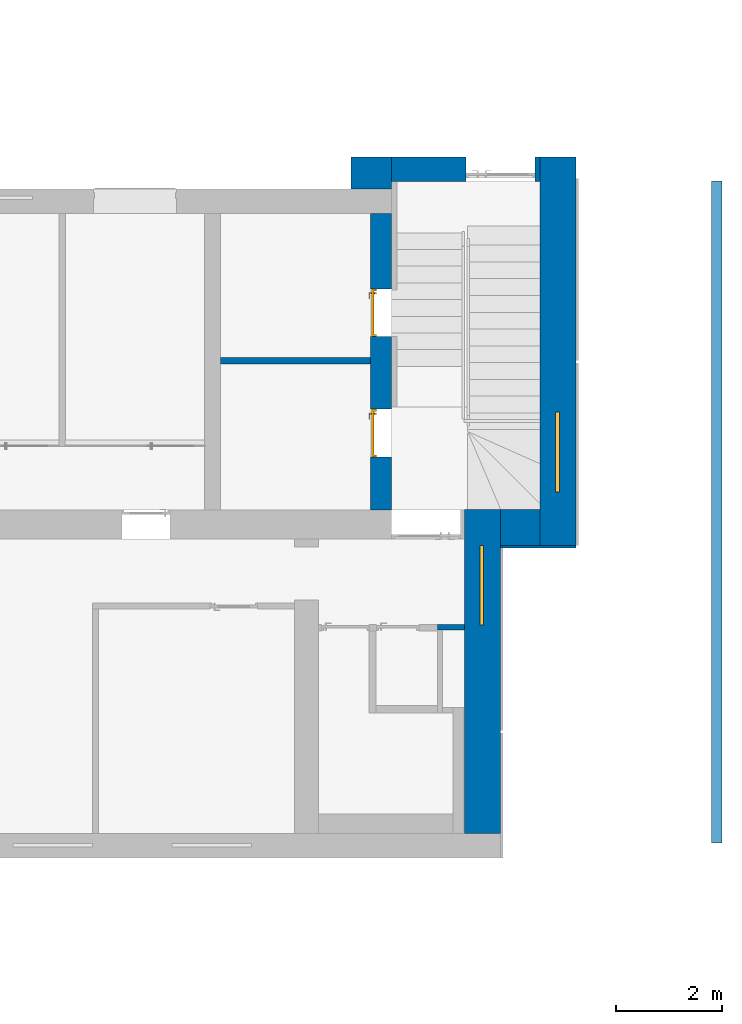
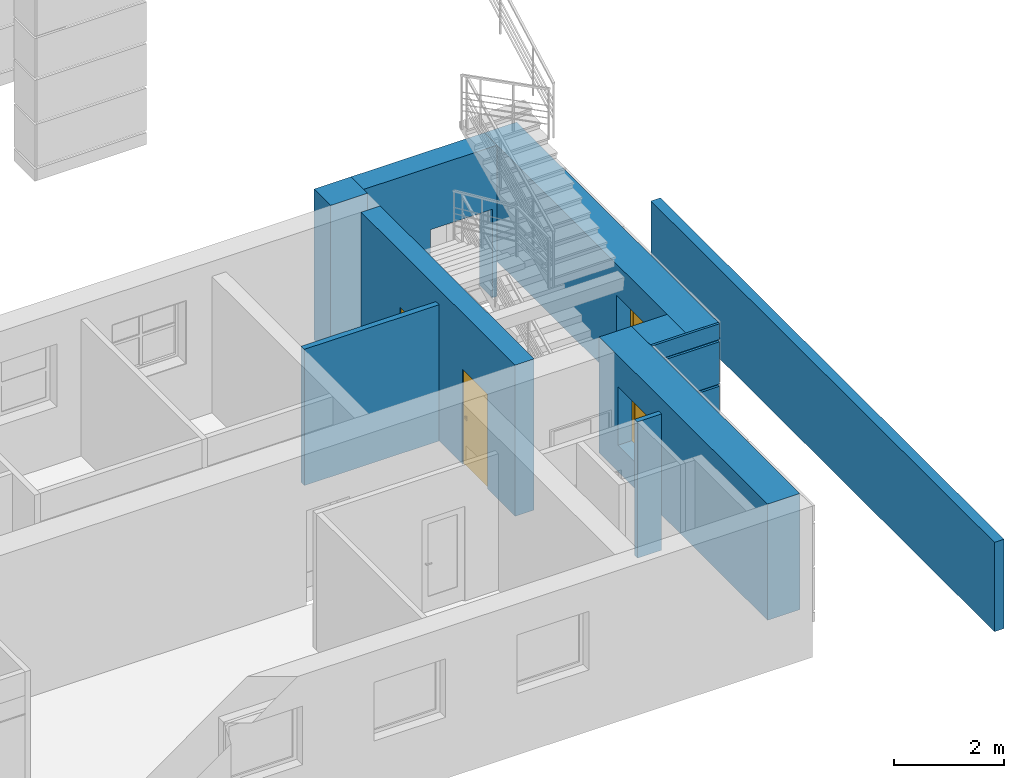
# One storey, part 29 of 49: 10 walls, 2 doors, 2 windows, 6 openings.
"""IFC2X3 building model written with IfcOpenShell, lengths in millimetres."""

from ifc_helpers import new_model, entity, si_unit, converted_unit, derived_unit, direction, frame, frame_2d, origin, place, context, subcontext, project, spatial, rectangle, extrude, face_set, faceted_brep, surface_model, source, transform, mapped, material, material_list, layer, layer_set, layer_usage, type_object, type_shapes, element, fill, save


model = new_model("IFC2X3")

# Units and contexts
model_context = context("Model", 3, precision=0.01, world=origin(), true_north=direction((6.12303176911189e-17, 1.0)))
body_context = subcontext(model_context, "Body", "Model", "MODEL_VIEW")
ifc_project = project(units=[si_unit("LENGTHUNIT", "METRE", prefix="MILLI"), si_unit("AREAUNIT", "SQUARE_METRE"), si_unit("VOLUMEUNIT", "CUBIC_METRE"), converted_unit("PLANEANGLEUNIT", "DEGREE", entity("IfcRatioMeasure", 0.0174532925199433), si_unit("PLANEANGLEUNIT", "RADIAN"), dimensions=[0, 0, 0, 0, 0, 0, 0]), si_unit("MASSUNIT", "GRAM", prefix="KILO"), derived_unit("MASSDENSITYUNIT", [(si_unit("MASSUNIT", "GRAM", prefix="KILO"), 1), (si_unit("LENGTHUNIT", "METRE"), -3)]), si_unit("TIMEUNIT", "SECOND"), si_unit("FREQUENCYUNIT", "HERTZ"), si_unit("THERMODYNAMICTEMPERATUREUNIT", "DEGREE_CELSIUS"), derived_unit("THERMALTRANSMITTANCEUNIT", [(si_unit("MASSUNIT", "GRAM", prefix="KILO"), 1), (si_unit("THERMODYNAMICTEMPERATUREUNIT", "KELVIN"), -1), (si_unit("TIMEUNIT", "SECOND"), -3)]), derived_unit("VOLUMETRICFLOWRATEUNIT", [(si_unit("LENGTHUNIT", "METRE"), 3), (si_unit("TIMEUNIT", "SECOND"), -1)]), si_unit("ELECTRICCURRENTUNIT", "AMPERE"), si_unit("ELECTRICVOLTAGEUNIT", "VOLT"), si_unit("POWERUNIT", "WATT"), si_unit("FORCEUNIT", "NEWTON", prefix="KILO"), si_unit("ILLUMINANCEUNIT", "LUX"), si_unit("LUMINOUSFLUXUNIT", "LUMEN"), si_unit("LUMINOUSINTENSITYUNIT", "CANDELA"), derived_unit("USERDEFINED", [(si_unit("MASSUNIT", "GRAM", prefix="KILO"), -1), (si_unit("LENGTHUNIT", "METRE"), -2), (si_unit("TIMEUNIT", "SECOND"), 3), (si_unit("LUMINOUSFLUXUNIT", "LUMEN"), 1)]), derived_unit("LINEARVELOCITYUNIT", [(si_unit("LENGTHUNIT", "METRE"), 1), (si_unit("TIMEUNIT", "SECOND"), -1)]), si_unit("PRESSUREUNIT", "PASCAL"), derived_unit("USERDEFINED", [(si_unit("LENGTHUNIT", "METRE"), -2), (si_unit("MASSUNIT", "GRAM", prefix="KILO"), 1), (si_unit("TIMEUNIT", "SECOND"), -2)])], contexts=[model_context])

# Site, building, storey
site_placement = place(None, frame((-151.875543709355, 2715.0, 0.0)))
site = spatial("IfcSite", under=ifc_project, at=site_placement, Name="Surface", CompositionType="ELEMENT")
building_placement = place(site_placement, origin())
building = spatial("IfcBuilding", under=site, at=building_placement, CompositionType="ELEMENT")
storey_placement = place(building_placement, origin())
storey = spatial("IfcBuildingStorey", under=building, at=storey_placement, Name="1 korrus", CompositionType="ELEMENT", Elevation=3.0969999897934e-10)

# Wall
ifc_material_1 = material(Name="Brick, Common")
ifc_layer_1 = layer(ifc_material_1, 750.0)
ifc_material_2 = material(Name="__Kips GN13_tava")
ifc_layer_2 = layer(ifc_material_2, 20.0)
ifc_layer_set_1 = layer_set([ifc_layer_1, ifc_layer_2], Name="Basic Wall:VS-1_770")
ifc_layer_usage_1 = layer_usage(ifc_layer_set_1, "AXIS2", "NEGATIVE", 385.0)
wall_type_1 = type_object("IfcWallType", Name="Basic Wall:VS-1_770", PredefinedType="STANDARD", material=ifc_layer_set_1)
wall_1_placement = place(storey_placement, frame((31987.6162682, 12610.0, 0.0), z_axis=(0.0, 0.0, 1.0), x_axis=(0.0, 1.0, 0.0)))
element("IfcWallStandardCase", 1, at=wall_1_placement, inside=storey, type_object=wall_type_1, material=ifc_layer_usage_1, Name="SEIN - 003", ObjectType="Basic Wall:VS-1_770", context=body_context, shape_type="SweptSolid", body=[
    extrude(rectangle(XDim=600.0, YDim=769.999999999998, at=frame_2d((300.0, 0.0), x_axis=(-1.0, 0.0))), origin(), (0.0, 0.0, 1.0), 3350.0),
])

# Wall, opening
ifc_layer_3 = layer(ifc_material_1, 440.0)
ifc_layer_4 = layer(ifc_material_2, 20.0)
ifc_layer_set_2 = layer_set([ifc_layer_3, ifc_layer_4], Name="Basic Wall:VS-1")
ifc_layer_usage_2 = layer_usage(ifc_layer_set_2, "AXIS2", "POSITIVE", -230.0)
wall_type_2 = type_object("IfcWallType", Name="Basic Wall:VS-1", PredefinedType="STANDARD", material=ifc_layer_set_2)
wall_2_placement = place(storey_placement, frame((35166.6162682, 12980.0, 0.0), z_axis=(0.0, 0.0, 1.0), x_axis=(-1.0, 0.0, 0.0)))
wall_2 = element("IfcWallStandardCase", 2, at=wall_2_placement, inside=storey, type_object=wall_type_2, material=ifc_layer_usage_2, Name="SEIN - 003", ObjectType="Basic Wall:VS-1", context=body_context, shape_type="SweptSolid", body=[
    extrude(rectangle(XDim=2794.00000000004, YDim=459.999999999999, at=frame_2d((1397.00000000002, 0.0), x_axis=(-1.0, 0.0))), origin(), (0.0, 0.0, 1.0), 3350.0),
])
opening_1_placement = place(wall_2_placement, frame((1395.0, 230.0, -135.0)))
element("IfcOpeningElement", 3, at=opening_1_placement, cuts=wall_2, Name="Kahepoolsed:SU-12.:1", ObjectType="Opening", context=body_context, shape_type="SweptSolid", body=[
    extrude(rectangle(XDim=2099.99999999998, YDim=1300.0, at=frame_2d((1049.99999999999, 650.0), x_axis=(1.0, 0.0))), frame((0.0, 0.0, 0.0), z_axis=(0.0, -1.0, 0.0), x_axis=(0.0, 0.0, 1.0)), (0.0, 0.0, 1.0), 460.0),
])

# Wall, opening, window
ifc_material_3 = material(Name="__Tuuletõkkeplaat")
ifc_layer_5 = layer(ifc_material_3, 9.0)
ifc_material_4 = material(Name="__Soojustus EPS")
ifc_layer_6 = layer(ifc_material_4, 200.0)
ifc_layer_7 = layer(ifc_material_1, 450.0)
ifc_layer_8 = layer(ifc_material_2, 20.0)
ifc_layer_set_3 = layer_set([ifc_layer_5, ifc_layer_6, ifc_layer_7, ifc_layer_8], Name="Basic Wall:VS-2_olemasolev sein fassaadikassettidega")
ifc_layer_usage_3 = layer_usage(ifc_layer_set_3, "AXIS2", "POSITIVE", -339.5)
wall_type_3 = type_object("IfcWallType", Name="Basic Wall:VS-2_olemasolev sein fassaadikassettidega", PredefinedType="STANDARD", material=ifc_layer_set_3)
wall_3_placement = place(storey_placement, frame((35506.1162682, 5891.0, 774.90546009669), z_axis=(0.0, 0.0, 1.0), x_axis=(0.0, 1.0, 0.0)))
wall_3 = element("IfcWallStandardCase", 4, at=wall_3_placement, inside=storey, type_object=wall_type_3, material=ifc_layer_usage_3, Name="SEIN - 002", ObjectType="Basic Wall:VS-2_olemasolev sein fassaadikassettidega", context=body_context, shape_type="SweptSolid", body=[
    extrude(rectangle(XDim=7319.00000000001, YDim=679.000000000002, at=frame_2d((3659.5, 0.0), x_axis=(-1.0, 0.0))), origin(), (0.0, 0.0, 1.0), 2575.094539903),
])
opening_2_placement = place(wall_3_placement, frame((-5891.0, 35506.1162682, -774.90546009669), z_axis=(0.0, 0.0, 1.0), x_axis=(0.0, -1.0, 0.0)))
opening_2 = element("IfcOpeningElement", 5, at=opening_2_placement, cuts=wall_3, Name="SEIN - 002", ObjectType="Opening", context=body_context, shape_type="SweptSolid", body=[
    extrude(rectangle(XDim=1300.0, YDim=1500.0, at=frame_2d((0.0, 5.11590769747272e-13), x_axis=(1.0, 0.0))), frame((36339.1162682, 7652.7671814, 2010.0), z_axis=(-1.0, 0.0, 0.0), x_axis=(0.0, 0.0, 1.0)), (0.0, 0.0, 1.0), 1666.5),
])
ifc_material_5 = material(Name="Paint - Dark Gray")
ifc_material_6 = material(Name="Paint - Titanium White")
ifc_material_7 = material(Name="Glass - Clear Fast")
ifc_material_list_1 = material_list([ifc_material_5, ifc_material_6, ifc_material_7])
ifc_material_list_2 = material_list([ifc_material_5, ifc_material_6, ifc_material_7])
window_style = type_object("IfcWindowStyle", Name="Aken_1300x1500", ConstructionType="NOTDEFINED", OperationType="SINGLE_PANEL", ParameterTakesPrecedence=False, Sizeable=False, material=ifc_material_list_2)
shared_shape_1 = source(origin(), body_context, "Body", "SurfaceModel", [
    surface_model("IfcFaceBasedSurfaceModel", [(80.0, -858.5, 1220.0), (80.0, -813.5, 1220.0), (0.0, -813.5, 1220.0), (0.0, -858.5, 1220.0), (80.0, -858.5, 80.0), (80.0, -813.5, 80.0), (80.0, -813.5, 1220.0), (80.0, -858.5, 1220.0), (80.0, -813.5, 1220.0), (80.0, -813.5, 80.0), (0.0, -813.5, 80.0), (0.0, -813.5, 1220.0), (0.0, -858.5, 1220.0), (0.0, -813.5, 1220.0), (0.0, -813.5, 80.0), (0.0, -858.5, 80.0), (80.0, -858.5, 1220.0), (0.0, -858.5, 1220.0), (0.0, -858.5, 80.0), (80.0, -858.5, 80.0), (0.0, -858.5, 80.0), (0.0, -813.5, 80.0), (80.0, -813.5, 80.0), (80.0, -858.5, 80.0), (1420.0, -858.5, 80.0), (1420.0, -813.5, 80.0), (1500.0, -813.5, 80.0), (1500.0, -858.5, 80.0), (1420.0, -858.5, 1220.0), (1420.0, -813.5, 1220.0), (1420.0, -813.5, 80.0), (1420.0, -858.5, 80.0), (1420.0, -813.5, 80.0), (1420.0, -813.5, 1220.0), (1500.0, -813.5, 1220.0), (1500.0, -813.5, 80.0), (1500.0, -858.5, 80.0), (1500.0, -813.5, 80.0), (1500.0, -813.5, 1220.0), (1500.0, -858.5, 1220.0), (1420.0, -858.5, 80.0), (1500.0, -858.5, 80.0), (1500.0, -858.5, 1220.0), (1420.0, -858.5, 1220.0), (1500.0, -858.5, 1220.0), (1500.0, -813.5, 1220.0), (1420.0, -813.5, 1220.0), (1420.0, -858.5, 1220.0), (80.0, -858.5, 80.0), (80.0, -813.5, 80.0), (0.0, -813.5, 80.0), (0.0, -858.5, 80.0), (1420.0, -858.5, 80.0), (1420.0, -813.5, 80.0), (80.0, -813.5, 80.0), (80.0, -858.5, 80.0), (80.0, -813.5, 80.0), (1420.0, -813.5, 80.0), (1500.0, -813.5, 80.0), (1500.0, -813.5, 0.0), (0.0, -813.5, 0.0), (0.0, -813.5, 80.0), (0.0, -858.5, 80.0), (0.0, -813.5, 80.0), (0.0, -813.5, 0.0), (0.0, -858.5, 0.0), (80.0, -858.5, 80.0), (0.0, -858.5, 80.0), (0.0, -858.5, 0.0), (1500.0, -858.5, 0.0), (1500.0, -858.5, 80.0), (1420.0, -858.5, 80.0), (1500.0, -858.5, 80.0), (1500.0, -813.5, 80.0), (1420.0, -813.5, 80.0), (1420.0, -858.5, 80.0), (1500.0, -858.5, 0.0), (1500.0, -813.5, 0.0), (1500.0, -813.5, 80.0), (1500.0, -858.5, 80.0), (0.0, -858.5, 0.0), (0.0, -813.5, 0.0), (1500.0, -813.5, 0.0), (1500.0, -858.5, 0.0), (1420.0, -858.5, 1220.0), (1420.0, -813.5, 1220.0), (1500.0, -813.5, 1220.0), (1500.0, -858.5, 1220.0), (80.0, -858.5, 1220.0), (80.0, -813.5, 1220.0), (1420.0, -813.5, 1220.0), (1420.0, -858.5, 1220.0), (1420.0, -813.5, 1220.0), (80.0, -813.5, 1220.0), (0.0, -813.5, 1220.0), (0.0, -813.5, 1300.0), (1500.0, -813.5, 1300.0), (1500.0, -813.5, 1220.0), (1500.0, -858.5, 1220.0), (1500.0, -813.5, 1220.0), (1500.0, -813.5, 1300.0), (1500.0, -858.5, 1300.0), (1420.0, -858.5, 1220.0), (1500.0, -858.5, 1220.0), (1500.0, -858.5, 1300.0), (0.0, -858.5, 1300.0), (0.0, -858.5, 1220.0), (80.0, -858.5, 1220.0), (0.0, -858.5, 1220.0), (0.0, -813.5, 1220.0), (80.0, -813.5, 1220.0), (80.0, -858.5, 1220.0), (0.0, -858.5, 1300.0), (0.0, -813.5, 1300.0), (0.0, -813.5, 1220.0), (0.0, -858.5, 1220.0), (1500.0, -858.5, 1300.0), (1500.0, -813.5, 1300.0), (0.0, -813.5, 1300.0), (0.0, -858.5, 1300.0)], [face_set([[[0, 1, 2, 3]]]), face_set([[[4, 5, 6, 7]]]), face_set([[[8, 9, 10, 11]]]), face_set([[[12, 13, 14, 15]]]), face_set([[[16, 17, 18, 19]]]), face_set([[[20, 21, 22, 23]]]), face_set([[[24, 25, 26, 27]]]), face_set([[[28, 29, 30, 31]]]), face_set([[[32, 33, 34, 35]]]), face_set([[[36, 37, 38, 39]]]), face_set([[[40, 41, 42, 43]]]), face_set([[[44, 45, 46, 47]]]), face_set([[[48, 49, 50, 51]]]), face_set([[[52, 53, 54, 55]]]), face_set([[[56, 57, 58, 59, 60, 61]]]), face_set([[[62, 63, 64, 65]]]), face_set([[[66, 67, 68, 69, 70, 71]]]), face_set([[[72, 73, 74, 75]]]), face_set([[[76, 77, 78, 79]]]), face_set([[[80, 81, 82, 83]]]), face_set([[[84, 85, 86, 87]]]), face_set([[[88, 89, 90, 91]]]), face_set([[[92, 93, 94, 95, 96, 97]]]), face_set([[[98, 99, 100, 101]]]), face_set([[[102, 103, 104, 105, 106, 107]]]), face_set([[[108, 109, 110, 111]]]), face_set([[[112, 113, 114, 115]]]), face_set([[[116, 117, 118, 119]]])]),
    surface_model("IfcFaceBasedSurfaceModel", [(80.0, -813.5, 1220.0), (80.0, -788.5, 1220.0), (0.0, -788.5, 1220.0), (0.0, -813.5, 1220.0), (80.0, -813.5, 80.0), (80.0, -788.5, 80.0), (80.0, -788.5, 1220.0), (80.0, -813.5, 1220.0), (80.0, -788.5, 1220.0), (80.0, -788.5, 80.0), (0.0, -788.5, 80.0), (0.0, -788.5, 1220.0), (0.0, -813.5, 1220.0), (0.0, -788.5, 1220.0), (0.0, -788.5, 80.0), (0.0, -813.5, 80.0), (80.0, -813.5, 1220.0), (0.0, -813.5, 1220.0), (0.0, -813.5, 80.0), (80.0, -813.5, 80.0), (0.0, -813.5, 80.0), (0.0, -788.5, 80.0), (80.0, -788.5, 80.0), (80.0, -813.5, 80.0), (1420.0, -813.5, 80.0), (1420.0, -788.5, 80.0), (1500.0, -788.5, 80.0), (1500.0, -813.5, 80.0), (1420.0, -813.5, 1220.0), (1420.0, -788.5, 1220.0), (1420.0, -788.5, 80.0), (1420.0, -813.5, 80.0), (1420.0, -788.5, 80.0), (1420.0, -788.5, 1220.0), (1500.0, -788.5, 1220.0), (1500.0, -788.5, 80.0), (1500.0, -813.5, 80.0), (1500.0, -788.5, 80.0), (1500.0, -788.5, 1220.0), (1500.0, -813.5, 1220.0), (1420.0, -813.5, 80.0), (1500.0, -813.5, 80.0), (1500.0, -813.5, 1220.0), (1420.0, -813.5, 1220.0), (1500.0, -813.5, 1220.0), (1500.0, -788.5, 1220.0), (1420.0, -788.5, 1220.0), (1420.0, -813.5, 1220.0), (80.0, -813.5, 80.0), (80.0, -788.5, 80.0), (0.0, -788.5, 80.0), (0.0, -813.5, 80.0), (1420.0, -813.5, 80.0), (1420.0, -788.5, 80.0), (80.0, -788.5, 80.0), (80.0, -813.5, 80.0), (80.0, -788.5, 80.0), (1420.0, -788.5, 80.0), (1500.0, -788.5, 80.0), (1500.0, -788.5, 0.0), (0.0, -788.5, 0.0), (0.0, -788.5, 80.0), (0.0, -813.5, 80.0), (0.0, -788.5, 80.0), (0.0, -788.5, 0.0), (0.0, -813.5, 0.0), (80.0, -813.5, 80.0), (0.0, -813.5, 80.0), (0.0, -813.5, 0.0), (1500.0, -813.5, 0.0), (1500.0, -813.5, 80.0), (1420.0, -813.5, 80.0), (1500.0, -813.5, 80.0), (1500.0, -788.5, 80.0), (1420.0, -788.5, 80.0), (1420.0, -813.5, 80.0), (1500.0, -813.5, 0.0), (1500.0, -788.5, 0.0), (1500.0, -788.5, 80.0), (1500.0, -813.5, 80.0), (0.0, -813.5, 0.0), (0.0, -788.5, 0.0), (1500.0, -788.5, 0.0), (1500.0, -813.5, 0.0), (1420.0, -813.5, 1220.0), (1420.0, -788.5, 1220.0), (1500.0, -788.5, 1220.0), (1500.0, -813.5, 1220.0), (80.0, -813.5, 1220.0), (80.0, -788.5, 1220.0), (1420.0, -788.5, 1220.0), (1420.0, -813.5, 1220.0), (1420.0, -788.5, 1220.0), (80.0, -788.5, 1220.0), (0.0, -788.5, 1220.0), (0.0, -788.5, 1300.0), (1500.0, -788.5, 1300.0), (1500.0, -788.5, 1220.0), (1500.0, -813.5, 1220.0), (1500.0, -788.5, 1220.0), (1500.0, -788.5, 1300.0), (1500.0, -813.5, 1300.0), (1420.0, -813.5, 1220.0), (1500.0, -813.5, 1220.0), (1500.0, -813.5, 1300.0), (0.0, -813.5, 1300.0), (0.0, -813.5, 1220.0), (80.0, -813.5, 1220.0), (0.0, -813.5, 1220.0), (0.0, -788.5, 1220.0), (80.0, -788.5, 1220.0), (80.0, -813.5, 1220.0), (0.0, -813.5, 1300.0), (0.0, -788.5, 1300.0), (0.0, -788.5, 1220.0), (0.0, -813.5, 1220.0), (1500.0, -813.5, 1300.0), (1500.0, -788.5, 1300.0), (0.0, -788.5, 1300.0), (0.0, -813.5, 1300.0)], [face_set([[[0, 1, 2, 3]]]), face_set([[[4, 5, 6, 7]]]), face_set([[[8, 9, 10, 11]]]), face_set([[[12, 13, 14, 15]]]), face_set([[[16, 17, 18, 19]]]), face_set([[[20, 21, 22, 23]]]), face_set([[[24, 25, 26, 27]]]), face_set([[[28, 29, 30, 31]]]), face_set([[[32, 33, 34, 35]]]), face_set([[[36, 37, 38, 39]]]), face_set([[[40, 41, 42, 43]]]), face_set([[[44, 45, 46, 47]]]), face_set([[[48, 49, 50, 51]]]), face_set([[[52, 53, 54, 55]]]), face_set([[[56, 57, 58, 59, 60, 61]]]), face_set([[[62, 63, 64, 65]]]), face_set([[[66, 67, 68, 69, 70, 71]]]), face_set([[[72, 73, 74, 75]]]), face_set([[[76, 77, 78, 79]]]), face_set([[[80, 81, 82, 83]]]), face_set([[[84, 85, 86, 87]]]), face_set([[[88, 89, 90, 91]]]), face_set([[[92, 93, 94, 95, 96, 97]]]), face_set([[[98, 99, 100, 101]]]), face_set([[[102, 103, 104, 105, 106, 107]]]), face_set([[[108, 109, 110, 111]]]), face_set([[[112, 113, 114, 115]]]), face_set([[[116, 117, 118, 119]]])]),
    surface_model("IfcFaceBasedSurfaceModel", [(80.0, -823.5, 80.0), (1420.0, -823.5, 80.0), (1420.0, -823.5, 1220.0), (80.0, -823.5, 1220.0), (80.0, -803.5, 80.0), (80.0, -803.5, 1220.0), (1420.0, -803.5, 1220.0), (1420.0, -803.5, 80.0)], [face_set([[[0, 1, 2, 3]]]), face_set([[[4, 5, 6, 7]]])]),
])
type_shapes(window_style, [shared_shape_1])
window_1_placement = place(opening_2_placement, frame((34672.6162682, 6902.7671814, 1360.0), z_axis=(0.0, 0.0, 1.0), x_axis=(0.0, 1.0, 0.0)))
window_1 = element("IfcWindow", 6, at=window_1_placement, inside=storey, type_object=window_style, material=ifc_material_list_1, Name="Aken_1300x1500:Aken_1300x1500", ObjectType="Aken_1300x1500", OverallHeight=1500.0, OverallWidth=1300.0, context=body_context, shape_type="MappedRepresentation", body=[
    mapped(shared_shape_1, transform((0.0, 0.0, 0.0), scale=1.0)),
])
fill(opening_2, window_1)

# Wall, openings, window
ifc_layer_usage_4 = layer_usage(ifc_layer_set_3, "AXIS2", "POSITIVE", -339.5)
wall_4_placement = place(storey_placement, frame((34081.1162682, 459.904632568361, 774.90546009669), z_axis=(0.0, 0.0, 1.0), x_axis=(0.0, 1.0, 0.0)))
wall_4 = element("IfcWallStandardCase", 7, at=wall_4_placement, inside=storey, type_object=wall_type_3, material=ifc_layer_usage_4, Name="SEIN - 003", ObjectType="Basic Wall:VS-2_olemasolev sein fassaadikassettidega", context=body_context, shape_type="SweptSolid", body=[
    extrude(rectangle(XDim=6110.09536743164, YDim=679.000000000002, at=frame_2d((3055.04768371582, 0.0), x_axis=(-1.0, 0.0))), origin(), (0.0, 0.0, 1.0), 2575.094539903),
])
opening_3_placement = place(wall_4_placement, origin())
element("IfcOpeningElement", 8, at=opening_3_placement, cuts=wall_4, Name="SEIN - 003", ObjectType="Opening", context=body_context, shape_type="SweptSolid", body=[
    extrude(rectangle(XDim=2450.0, YDim=1479.65663216, at=frame_2d((-3.41060513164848e-13, 2.8421709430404e-13), x_axis=(1.0, 0.0))), frame((4682.32465396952, -848.300000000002, 3800.094539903), z_axis=(0.0, 1.0, 0.0), x_axis=(0.0, 0.0, 1.0)), (0.0, 0.0, 1.0), 1696.8),
])
opening_4_placement = place(wall_4_placement, frame((-459.904632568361, 34081.1162682, -774.90546009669), z_axis=(0.0, 0.0, 1.0), x_axis=(0.0, -1.0, 0.0)))
opening_4 = element("IfcOpeningElement", 9, at=opening_4_placement, cuts=wall_4, Name="SEIN - 003", ObjectType="Opening", context=body_context, shape_type="SweptSolid", body=[
    extrude(rectangle(XDim=1300.0, YDim=1500.0, at=frame_2d((0.0, -2.27373675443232e-13), x_axis=(1.0, 0.0))), frame((34914.1162682, 5141.83255801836, 2010.0), z_axis=(-1.0, 0.0, 0.0), x_axis=(0.0, 0.0, 1.0)), (0.0, 0.0, 1.0), 1666.5),
])
ifc_material_list_3 = material_list([ifc_material_5, ifc_material_6, ifc_material_7])
window_2_placement = place(opening_4_placement, frame((33247.6162682, 4391.83255801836, 1360.0), z_axis=(0.0, 0.0, 1.0), x_axis=(0.0, 1.0, 0.0)))
window_2 = element("IfcWindow", 10, at=window_2_placement, inside=storey, type_object=window_style, material=ifc_material_list_3, Name="Aken_1300x1500:Aken_1300x1500", ObjectType="Aken_1300x1500", OverallHeight=1500.0, OverallWidth=1300.0, context=body_context, shape_type="MappedRepresentation", body=[
    mapped(shared_shape_1, transform((0.0, 0.0, 0.0), scale=1.0)),
])
fill(opening_4, window_2)

# Wall
ifc_layer_usage_5 = layer_usage(ifc_layer_set_3, "AXIS2", "POSITIVE", -339.5)
wall_5_placement = place(storey_placement, frame((34420.6162682, 6230.5, 774.90546009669)))
element("IfcWallStandardCase", 11, at=wall_5_placement, inside=storey, type_object=wall_type_3, material=ifc_layer_usage_5, Name="SEIN - 003", ObjectType="Basic Wall:VS-2_olemasolev sein fassaadikassettidega", context=body_context, shape_type="SweptSolid", body=[
    extrude(rectangle(XDim=679.0, YDim=745.999999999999, at=frame_2d((-5.40012479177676e-13, -2.1600499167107e-12), x_axis=(1.0, 0.0))), frame((373.0, 0.0, 0.0), z_axis=(0.0, 0.0, 1.0), x_axis=(0.0, 1.0, 0.0)), (0.0, 0.0, 1.0), 2575.094539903),
])

# Wall, openings, doors
ifc_material_8 = material(Name="__Hall krohv")
ifc_layer_9 = layer(ifc_material_8, 10.0)
ifc_material_9 = material(Name="Tellis")
ifc_layer_10 = layer(ifc_material_9, 380.0)
ifc_layer_11 = layer(ifc_material_8, 10.0)
ifc_layer_set_4 = layer_set([ifc_layer_9, ifc_layer_10, ifc_layer_11], Name="Basic Wall:SS-01_ol.olev tellissein400")
ifc_layer_usage_6 = layer_usage(ifc_layer_set_4, "AXIS2", "NEGATIVE", 200.0)
wall_type_4 = type_object("IfcWallType", Name="Basic Wall:SS-01_ol.olev tellissein400", PredefinedType="STANDARD", material=ifc_layer_set_4)
wall_6_placement = place(storey_placement, frame((32172.6162682, 6560.0, 0.0), z_axis=(0.0, 0.0, 1.0), x_axis=(0.0, 1.0, 0.0)))
wall_6 = element("IfcWallStandardCase", 12, at=wall_6_placement, inside=storey, type_object=wall_type_4, material=ifc_layer_usage_6, Name="SEIN - 003", ObjectType="Basic Wall:SS-01_ol.olev tellissein400", context=body_context, shape_type="SweptSolid", body=[
    extrude(rectangle(XDim=5590.0, YDim=400.000000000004, at=frame_2d((2795.0, 0.0), x_axis=(-1.0, 0.0))), origin(), (0.0, 0.0, 1.0), 3350.0),
])
opening_5_placement = place(wall_6_placement, frame((3269.13648785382, -200.0, 0.0)))
opening_5 = element("IfcOpeningElement", 13, at=opening_5_placement, cuts=wall_6, Name="Ühepoolsed:SU-10:1", ObjectType="Opening", context=body_context, shape_type="SweptSolid", body=[
    extrude(rectangle(XDim=2099.99999999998, YDim=900.0, at=frame_2d((1049.99999999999, 450.000000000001), x_axis=(1.0, 0.0))), frame((0.0, 0.0, 0.0), z_axis=(0.0, 1.0, 0.0), x_axis=(0.0, 0.0, 1.0)), (0.0, 0.0, 1.0), 400.0),
])
opening_6_placement = place(wall_6_placement, frame((1000.0, -200.0, 0.0)))
opening_6 = element("IfcOpeningElement", 14, at=opening_6_placement, cuts=wall_6, Name="Ühepoolsed:SU-10:1", ObjectType="Opening", context=body_context, shape_type="SweptSolid", body=[
    extrude(rectangle(XDim=2099.99999999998, YDim=900.0, at=frame_2d((1049.99999999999, 450.0), x_axis=(1.0, 0.0))), frame((0.0, 0.0, 0.0), z_axis=(0.0, 1.0, 0.0), x_axis=(0.0, 0.0, 1.0)), (0.0, 0.0, 1.0), 400.0),
])
ifc_material_10 = material(Name="_Alumiiniumprofiil - must")
ifc_material_11 = material(Name="__Uks_hele tamm")
ifc_material_list_4 = material_list([ifc_material_10, ifc_material_11])
ifc_material_list_5 = material_list([ifc_material_10, ifc_material_11])
door_style = type_object("IfcDoorStyle", Name="SU-10", ConstructionType="NOTDEFINED", OperationType="FOLDING_TO_RIGHT", ParameterTakesPrecedence=False, Sizeable=False, material=ifc_material_list_5)
shared_shape_2 = source(origin(), body_context, "Body", "Brep", [
    faceted_brep([(800.0, 290.0, 1112.5), (705.0, 290.0, 1112.5), (705.0, 285.0, 1112.5), (825.0, 285.0, 1112.5), (825.0, 328.0, 1112.5), (800.0, 328.0, 1112.5), (800.0, 290.0, 1087.5), (800.0, 328.0, 1087.5), (825.0, 328.0, 1087.5), (825.0, 285.0, 1087.5), (705.0, 285.0, 1087.5), (705.0, 290.0, 1087.5)], [[[0, 1, 2, 3, 4, 5]], [[6, 7, 8, 9, 10, 11]], [[5, 7, 6, 0]], [[4, 8, 7, 5]], [[3, 9, 8, 4]], [[2, 10, 9, 3]], [[1, 11, 10, 2]], [[0, 6, 11, 1]]]),
    faceted_brep([(787.500000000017, 328.0, 1137.5), (837.500000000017, 328.0, 1137.5), (837.500000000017, 330.0, 1137.5), (787.500000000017, 330.0, 1137.5), (787.500000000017, 328.0, 1017.5), (787.500000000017, 330.0, 1017.5), (837.500000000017, 330.0, 1017.5), (837.500000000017, 328.0, 1017.5)], [[[0, 1, 2, 3]], [[4, 5, 6, 7]], [[3, 5, 4, 0]], [[2, 6, 5, 3]], [[1, 7, 6, 2]], [[0, 4, 7, 1]]]),
    faceted_brep([(800.0, 420.0, 1112.5), (800.0, 382.0, 1112.5), (825.0, 382.0, 1112.5), (825.0, 425.0, 1112.5), (705.0, 425.0, 1112.5), (705.0, 420.0, 1112.5), (800.0, 420.0, 1087.5), (705.0, 420.0, 1087.5), (705.0, 425.0, 1087.5), (825.0, 425.0, 1087.5), (825.0, 382.0, 1087.5), (800.0, 382.0, 1087.5)], [[[0, 1, 2, 3, 4, 5]], [[6, 7, 8, 9, 10, 11]], [[1, 0, 6, 11]], [[2, 1, 11, 10]], [[3, 2, 10, 9]], [[4, 3, 9, 8]], [[5, 4, 8, 7]], [[0, 5, 7, 6]]]),
    faceted_brep([(787.500000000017, 382.0, 1137.5), (787.500000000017, 380.0, 1137.5), (837.500000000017, 380.0, 1137.5), (837.500000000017, 382.0, 1137.5), (787.500000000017, 382.0, 1017.5), (837.500000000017, 382.0, 1017.5), (837.500000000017, 380.0, 1017.5), (787.500000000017, 380.0, 1017.5)], [[[0, 1, 2, 3]], [[4, 5, 6, 7]], [[1, 0, 4, 7]], [[2, 1, 7, 6]], [[3, 2, 6, 5]], [[0, 3, 5, 4]]]),
    faceted_brep([(0.0, 290.0, 0.0), (0.0, 380.0, 0.0), (25.0, 380.0, 0.0), (25.0, 330.0, 0.0), (40.0, 330.0, 0.0), (40.0, 290.0, 0.0), (40.0, 290.0, 2060.0), (860.0, 290.0, 2060.0), (860.0, 290.0, 0.0), (900.0, 290.0, 0.0), (900.0, 290.0, 2100.0), (0.0, 290.0, 2100.0), (40.0, 330.0, 2060.0), (25.0, 330.0, 2075.0), (875.0, 330.0, 2075.0), (875.0, 330.0, 0.0), (860.0, 330.0, 0.0), (860.0, 330.0, 2060.0), (25.0, 380.0, 2075.0), (0.0, 380.0, 2100.0), (900.0, 380.0, 2100.0), (900.0, 380.0, 0.0), (875.0, 380.0, 0.0), (875.0, 380.0, 2075.0)], [[[0, 1, 2, 3, 4, 5]], [[5, 6, 7, 8, 9, 10, 11, 0]], [[4, 12, 6, 5]], [[3, 13, 14, 15, 16, 17, 12, 4]], [[2, 18, 13, 3]], [[1, 19, 20, 21, 22, 23, 18, 2]], [[0, 11, 19, 1]], [[9, 21, 20, 10]], [[8, 16, 15, 22, 21, 9]], [[7, 17, 16, 8]], [[14, 23, 22, 15]], [[10, 20, 19, 11]], [[6, 12, 17, 7]], [[13, 18, 23, 14]]]),
    faceted_brep([(875.0, 330.0, 2075.0), (25.0, 330.0, 2075.0), (25.0, 330.0, 20.0), (875.0, 330.0, 20.0), (875.0, 380.0, 2075.0), (875.0, 380.0, 20.0), (25.0, 380.0, 20.0), (25.0, 380.0, 2075.0)], [[[0, 1, 2, 3]], [[4, 5, 6, 7]], [[3, 5, 4, 0]], [[2, 6, 5, 3]], [[1, 7, 6, 2]], [[0, 4, 7, 1]]]),
])
type_shapes(door_style, [shared_shape_2])
door_1_placement = place(opening_5_placement, origin())
door_1 = element("IfcDoor", 15, at=door_1_placement, inside=storey, type_object=door_style, material=ifc_material_list_4, Name="Ühepoolsed:SU-10", ObjectType="SU-10", OverallHeight=2099.99999999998, OverallWidth=900.000000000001, context=body_context, shape_type="MappedRepresentation", body=[
    mapped(shared_shape_2, transform((0.0, 0.0, 0.0), scale=1.0)),
])
fill(opening_5, door_1)
ifc_material_list_6 = material_list([ifc_material_10, ifc_material_11])
door_2_placement = place(opening_6_placement, origin())
door_2 = element("IfcDoor", 16, at=door_2_placement, inside=storey, type_object=door_style, material=ifc_material_list_6, Name="Ühepoolsed:SU-10", ObjectType="SU-10", OverallHeight=2099.99999999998, OverallWidth=900.0, context=body_context, shape_type="MappedRepresentation", body=[
    mapped(shared_shape_2, transform((0.0, 0.0, 0.0), scale=1.0)),
])
fill(opening_6, door_2)

# Walls
ifc_layer_12 = layer(ifc_material_2, 12.5)
ifc_layer_13 = layer(ifc_material_2, 12.5)
ifc_layer_14 = layer(ifc_material_4, 66.0)
ifc_layer_15 = layer(ifc_material_2, 12.5)
ifc_layer_16 = layer(ifc_material_2, 12.5)
ifc_layer_set_5 = layer_set([ifc_layer_12, ifc_layer_13, ifc_layer_14, ifc_layer_15, ifc_layer_16], Name="Basic Wall:SS-3*_Kipssein EI-60")
ifc_layer_usage_7 = layer_usage(ifc_layer_set_5, "AXIS2", "POSITIVE", -58.0)
wall_type_5 = type_object("IfcWallType", Name="Basic Wall:SS-3*_Kipssein EI-60", PredefinedType="STANDARD", material=ifc_layer_set_5)
wall_7_placement = place(storey_placement, frame((29146.0994792, 9371.1364802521, 0.0)))
element("IfcWallStandardCase", 17, at=wall_7_placement, inside=storey, type_object=wall_type_5, material=ifc_layer_usage_7, Name="Basic Wall:SS-3*_Kipssein EI-60", ObjectType="Basic Wall:SS-3*_Kipssein EI-60", context=body_context, shape_type="SweptSolid", body=[
    extrude(rectangle(XDim=2826.51678899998, YDim=116.0, at=frame_2d((1413.25839449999, 1.27897692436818e-13), x_axis=(-1.0, 0.0))), origin(), (0.0, 0.0, 1.0), 3020.0),
])
ifc_material_12 = material(Name="__Helehall")
ifc_layer_17 = layer(ifc_material_12, 10.0)
ifc_material_13 = material(Name="__Kergblokk")
ifc_layer_18 = layer(ifc_material_13, 90.0)
ifc_layer_set_6 = layer_set([ifc_layer_17, ifc_layer_18], Name="Basic Wall:SS-6_Šahti sein EI-60")
ifc_layer_usage_8 = layer_usage(ifc_layer_set_6, "AXIS2", "NEGATIVE", 50.0)
wall_type_6 = type_object("IfcWallType", Name="Basic Wall:SS-6_Šahti sein EI-60", PredefinedType="STANDARD", material=ifc_layer_set_6)
wall_8_placement = place(storey_placement, frame((33231.7578719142, 4351.60967891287, 0.0)))
element("IfcWallStandardCase", 18, at=wall_8_placement, inside=storey, type_object=wall_type_6, material=ifc_layer_usage_8, Name="Basic Wall:SS-6_Šahti sein EI-60", ObjectType="Basic Wall:SS-6_Šahti sein EI-60", context=body_context, shape_type="SweptSolid", body=[
    extrude(rectangle(XDim=509.8583962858, YDim=100.0, at=frame_2d((254.9291981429, -2.0961010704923e-13), x_axis=(-1.0, 0.0))), origin(), (0.0, 0.0, 1.0), 3020.0),
])
ifc_material_14 = material(Name="Betoon_uus konstr.")
ifc_layer_19 = layer(ifc_material_14, 200.0)
ifc_layer_set_7 = layer_set([ifc_layer_19], Name="Basic Wall:Uus tugimüür 200mm")
ifc_layer_usage_9 = layer_usage(ifc_layer_set_7, "AXIS2", "NEGATIVE", 100.0)
wall_type_7 = type_object("IfcWallType", Name="Basic Wall:Uus tugimüür 200mm", PredefinedType="STANDARD", material=ifc_layer_set_7)
wall_9_placement = place(storey_placement, frame((38496.623876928, 12759.9604184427, -1000.0), z_axis=(0.0, 0.0, 1.0), x_axis=(0.0, -1.0, 0.0)))
element("IfcWallStandardCase", 19, at=wall_9_placement, inside=storey, type_object=wall_type_7, material=ifc_layer_usage_9, Name="Basic Wall:Uus tugimüür 200mm", ObjectType="Basic Wall:Uus tugimüür 200mm", context=body_context, shape_type="SweptSolid", body=[
    extrude(rectangle(XDim=12475.0000000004, YDim=199.999999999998, at=frame_2d((6237.5000000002, -1.49213974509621e-12), x_axis=(-1.0, 0.0))), origin(), (0.0, 0.0, 1.0), 1980.0),
])
ifc_material_15 = material(Name="Steel/Aluminium")
wall_type_8 = type_object("IfcWallType", Name="fassaad6.3:fassaad6.3", PredefinedType="NOTDEFINED", material=ifc_material_15)
wall_10_placement = place(storey_placement, frame((34420.6162682, 5841.0, 774.905460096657)))
element("IfcWall", 20, at=wall_10_placement, inside=storey, type_object=wall_type_8, material=ifc_material_15, Name="fassaad6.3:fassaad6.3", ObjectType="fassaad6.3:fassaad6.3", context=body_context, shape_type="SweptSolid", body=[
    extrude(rectangle(XDim=49.9999999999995, YDim=1425.0, at=frame_2d((0.0, 2.1600499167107e-12), x_axis=(1.0, 0.0))), frame((712.500000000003, 25.0, 0.0), z_axis=(0.0, 0.0, 1.0), x_axis=(0.0, 1.0, 0.0)), (0.0, 0.0, 1.0), 204.999999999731),
    extrude(rectangle(XDim=49.9999999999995, YDim=1425.0, at=frame_2d((-5.40012479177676e-13, 2.1600499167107e-12), x_axis=(1.0, 0.0))), frame((712.500000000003, 25.0, 255.0), z_axis=(0.0, 0.0, 1.0), x_axis=(0.0, 1.0, 0.0)), (0.0, 0.0, 1.0), 934.999999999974),
    extrude(rectangle(XDim=49.9999999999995, YDim=1425.0, at=frame_2d((0.0, 2.1600499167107e-12), x_axis=(1.0, 0.0))), frame((712.500000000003, 25.0, 2225.0), z_axis=(0.0, 0.0, 1.0), x_axis=(0.0, 1.0, 0.0)), (0.0, 0.0, 1.0), 349.999999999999),
    extrude(rectangle(XDim=49.9999999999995, YDim=1425.0, at=frame_2d((0.0, 2.1600499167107e-12), x_axis=(1.0, 0.0))), frame((712.500000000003, 25.0, 1240.0), z_axis=(0.0, 0.0, 1.0), x_axis=(0.0, 1.0, 0.0)), (0.0, 0.0, 1.0), 934.999999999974),
])

save(model, "model.ifc")
